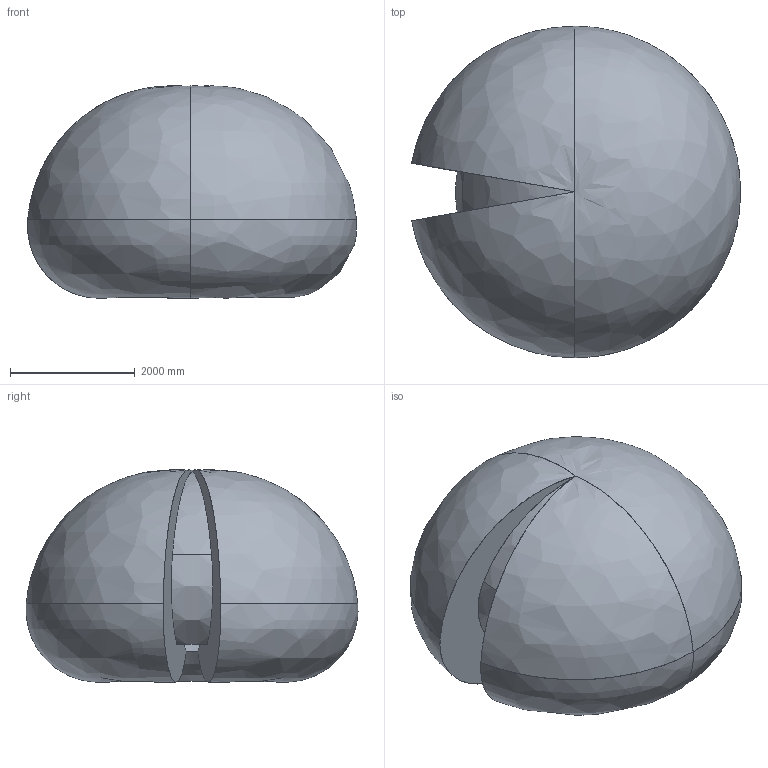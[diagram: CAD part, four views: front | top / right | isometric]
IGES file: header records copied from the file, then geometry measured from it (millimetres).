
Start section: SolidWorks IGES file using analytic representation for surfaces
Global section: file name: C:\Users\seamsto1\Desktop\Lättvikt\IRB6710-LID-MH_175kg-265_OC_00_SW_J\IRB6710-LID-MH_175kg-265_OC_00_IGES_J\IRB6710-LID_175kg-265_OC_00_Working-space.IGS; native system: SolidWorks 2020; preprocessor: SolidWorks 2020; author: SEAMSTO1; date: 230510.124045; units: millimetre
Bounding box: 5274.1 x 5320.19 x 3401.4 mm (x, y, z)
Surface area: 89105575.8 mm2 (no closed solid volume)
Topology: 0 solids, 0 shells, 18 faces, 384 edges, 376 vertices
Faces by surface type: bspline 18
